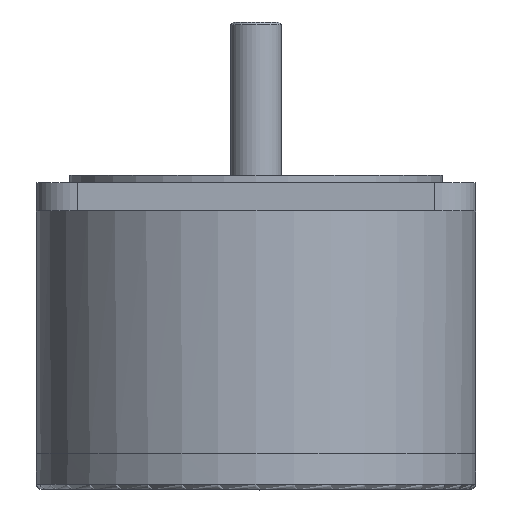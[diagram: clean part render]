
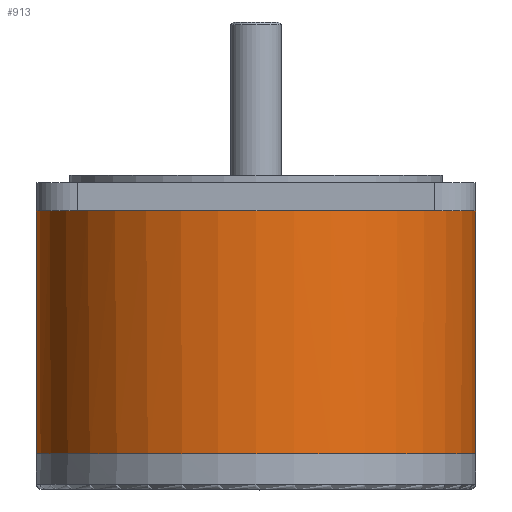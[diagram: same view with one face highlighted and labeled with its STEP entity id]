
A CAD part, left-side view. The second image highlights one B-rep face of the part: STEP entity #913.
In plain terms, the highlighted cylindrical face has radius 43 mm (diameter 86 mm), a full revolution.
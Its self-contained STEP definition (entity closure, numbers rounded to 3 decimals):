
#84=CARTESIAN_POINT('',(42.948,2.107,0.0));
#85=VERTEX_POINT('',#84);
#95=CARTESIAN_POINT('',(42.999,-0.344,0.0));
#96=VERTEX_POINT('',#95);
#97=CARTESIAN_POINT('',(42.999,-0.344,0.));
#98=CARTESIAN_POINT('',(42.999,-0.297,0.064));
#99=CARTESIAN_POINT('',(42.999,-0.246,0.124));
#100=CARTESIAN_POINT('',(43.,-0.058,0.313));
#101=CARTESIAN_POINT('',(43.,0.111,0.43));
#102=CARTESIAN_POINT('',(42.998,0.482,0.585));
#103=CARTESIAN_POINT('',(42.995,0.684,0.624));
#104=CARTESIAN_POINT('',(42.987,1.063,0.627));
#105=CARTESIAN_POINT('',(42.982,1.265,0.591));
#106=CARTESIAN_POINT('',(42.969,1.638,0.44));
#107=CARTESIAN_POINT('',(42.962,1.808,0.326));
#108=CARTESIAN_POINT('',(42.953,2.001,0.135));
#109=CARTESIAN_POINT('',(42.951,2.057,0.07));
#110=CARTESIAN_POINT('',(42.948,2.107,0.));
#111=B_SPLINE_CURVE_WITH_KNOTS('',3,(#97,#98,#99,#100,#101,#102,#103,#104,#105,#106,#107,#108,#109,#110),.UNSPECIFIED.,.F.,.U.,(4,2,2,2,2,2,4),(0.09,0.113,0.17,0.227,0.284,0.341,0.365),.UNSPECIFIED.);
#112=EDGE_CURVE('',#96,#85,#111,.T.);
#815=CARTESIAN_POINT('',(42.962,-1.803,0.0));
#816=VERTEX_POINT('',#815);
#817=CARTESIAN_POINT('',(0.0,0.0,0.0));
#818=DIRECTION('',(0.0,0.0,-1.0));
#819=DIRECTION('',(-1.0,0.0,0.0));
#820=AXIS2_PLACEMENT_3D('',#817,#818,#819);
#821=CIRCLE('',#820,43.0);
#822=EDGE_CURVE('',#96,#816,#821,.T.);
#859=CARTESIAN_POINT('',(0.0,0.0,0.0));
#860=DIRECTION('',(0.0,0.0,1.0));
#861=DIRECTION('',(-1.0,0.0,0.0));
#862=AXIS2_PLACEMENT_3D('',#859,#860,#861);
#863=CYLINDRICAL_SURFACE('',#862,43.0);
#864=ORIENTED_EDGE('',*,*,#112,.T.);
#865=CARTESIAN_POINT('',(0.0,0.0,0.0));
#866=DIRECTION('',(0.0,0.0,-1.0));
#867=DIRECTION('',(-1.0,0.0,0.0));
#868=AXIS2_PLACEMENT_3D('',#865,#866,#867);
#869=CIRCLE('',#868,43.0);
#870=EDGE_CURVE('',#816,#85,#869,.T.);
#871=ORIENTED_EDGE('',*,*,#870,.F.);
#872=ORIENTED_EDGE('',*,*,#822,.F.);
#873=EDGE_LOOP('',(#864,#871,#872));
#874=FACE_OUTER_BOUND('',#873,.T.);
#875=CARTESIAN_POINT('',(43.0,0.,47.5));
#876=VERTEX_POINT('',#875);
#877=CARTESIAN_POINT('',(0.0,-43.0,47.5));
#878=VERTEX_POINT('',#877);
#879=CARTESIAN_POINT('',(0.0,0.0,47.5));
#880=DIRECTION('',(0.0,0.0,-1.0));
#881=DIRECTION('',(-1.0,0.0,0.0));
#882=AXIS2_PLACEMENT_3D('',#879,#880,#881);
#883=CIRCLE('',#882,43.0);
#884=EDGE_CURVE('',#876,#878,#883,.T.);
#885=ORIENTED_EDGE('',*,*,#884,.T.);
#886=CARTESIAN_POINT('',(-43.0,0.0,47.5));
#887=VERTEX_POINT('',#886);
#888=CARTESIAN_POINT('',(0.0,0.0,47.5));
#889=DIRECTION('',(0.0,0.0,-1.0));
#890=DIRECTION('',(-1.0,0.0,0.0));
#891=AXIS2_PLACEMENT_3D('',#888,#889,#890);
#892=CIRCLE('',#891,43.0);
#893=EDGE_CURVE('',#878,#887,#892,.T.);
#894=ORIENTED_EDGE('',*,*,#893,.T.);
#895=CARTESIAN_POINT('',(0.0,43.0,47.5));
#896=VERTEX_POINT('',#895);
#897=CARTESIAN_POINT('',(0.0,0.0,47.5));
#898=DIRECTION('',(0.0,0.0,-1.0));
#899=DIRECTION('',(-1.0,0.0,0.0));
#900=AXIS2_PLACEMENT_3D('',#897,#898,#899);
#901=CIRCLE('',#900,43.0);
#902=EDGE_CURVE('',#887,#896,#901,.T.);
#903=ORIENTED_EDGE('',*,*,#902,.T.);
#904=CARTESIAN_POINT('',(0.0,0.0,47.5));
#905=DIRECTION('',(0.0,0.0,-1.0));
#906=DIRECTION('',(-1.0,0.0,0.0));
#907=AXIS2_PLACEMENT_3D('',#904,#905,#906);
#908=CIRCLE('',#907,43.0);
#909=EDGE_CURVE('',#896,#876,#908,.T.);
#910=ORIENTED_EDGE('',*,*,#909,.T.);
#911=EDGE_LOOP('',(#885,#894,#903,#910));
#912=FACE_BOUND('',#911,.T.);
#913=ADVANCED_FACE('',(#874,#912),#863,.T.);
